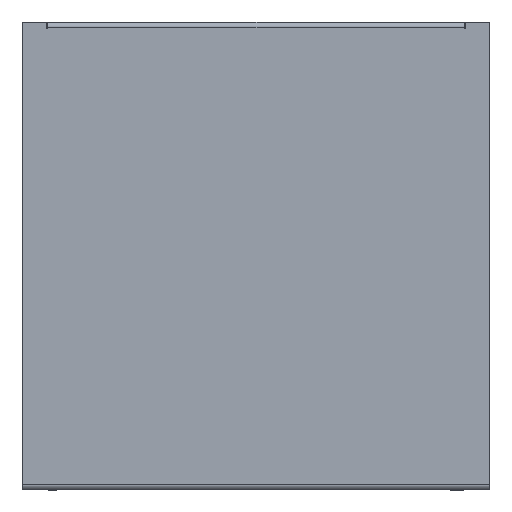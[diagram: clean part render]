
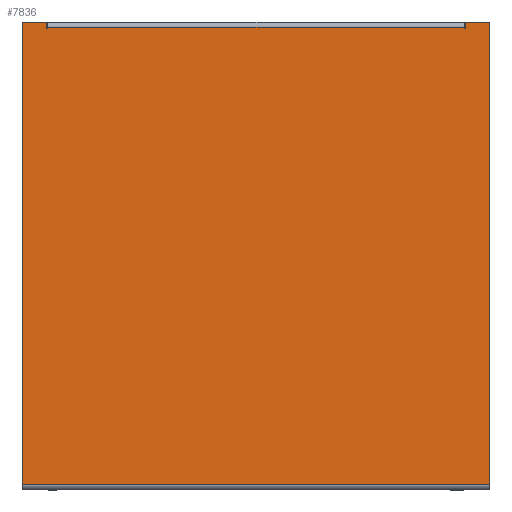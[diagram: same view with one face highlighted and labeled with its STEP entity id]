
A CAD part, left-side view. The second image highlights one B-rep face of the part: STEP entity #7836.
In plain terms, the highlighted planar face has unit normal (-1, 0, 0).
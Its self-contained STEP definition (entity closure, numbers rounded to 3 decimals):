
#76 = VECTOR ( 'NONE', #1797, 1000. ) ;
#78 = DIRECTION ( 'NONE',  ( 0., 1., 0. ) ) ;
#143 = VERTEX_POINT ( 'NONE', #7444 ) ;
#147 = LINE ( 'NONE', #1275, #6655 ) ;
#205 = DIRECTION ( 'NONE',  ( 1., 0., 0. ) ) ;
#279 = CARTESIAN_POINT ( 'NONE',  ( -450., -313.5, 600. ) ) ;
#378 = LINE ( 'NONE', #2094, #3633 ) ;
#403 = LINE ( 'NONE', #6914, #6933 ) ;
#527 = LINE ( 'NONE', #1353, #3585 ) ;
#727 = VERTEX_POINT ( 'NONE', #4244 ) ;
#1008 = VERTEX_POINT ( 'NONE', #279 ) ;
#1156 = VECTOR ( 'NONE', #1201, 1000. ) ;
#1201 = DIRECTION ( 'NONE',  ( 0., -1., 0. ) ) ;
#1229 = CARTESIAN_POINT ( 'NONE',  ( -450., -313.5, 590. ) ) ;
#1275 = CARTESIAN_POINT ( 'NONE',  ( -450., 350., 600. ) ) ;
#1353 = CARTESIAN_POINT ( 'NONE',  ( -450., 313.5, 0. ) ) ;
#1382 = CARTESIAN_POINT ( 'NONE',  ( -450., 313.5, 590. ) ) ;
#1412 = VERTEX_POINT ( 'NONE', #1382 ) ;
#1516 = EDGE_CURVE ( 'NONE', #4821, #2893, #6252, .T. ) ;
#1615 = DIRECTION ( 'NONE',  ( 0., 0., 1. ) ) ;
#1727 = CARTESIAN_POINT ( 'NONE',  ( -450., -311.5, 592. ) ) ;
#1797 = DIRECTION ( 'NONE',  ( 0., 0., 1. ) ) ;
#1970 = LINE ( 'NONE', #6509, #6686 ) ;
#2032 = ORIENTED_EDGE ( 'NONE', *, *, #2855, .F. ) ;
#2094 = CARTESIAN_POINT ( 'NONE',  ( -450., 350., 600. ) ) ;
#2135 = ORIENTED_EDGE ( 'NONE', *, *, #6952, .T. ) ;
#2151 = ORIENTED_EDGE ( 'NONE', *, *, #4120, .T. ) ;
#2193 = CARTESIAN_POINT ( 'NONE',  ( -450., 350., 600. ) ) ;
#2196 = FACE_OUTER_BOUND ( 'NONE', #2233, .T. ) ;
#2233 = EDGE_LOOP ( 'NONE', ( #2032, #3055, #7869, #4473, #4886, #7828, #7443, #3291, #7358, #2135, #2151, #6149 ) ) ;
#2441 = EDGE_CURVE ( 'NONE', #2893, #3813, #378, .T. ) ;
#2657 = VERTEX_POINT ( 'NONE', #1229 ) ;
#2676 = CARTESIAN_POINT ( 'NONE',  ( -450., 0., 0. ) ) ;
#2834 = CARTESIAN_POINT ( 'NONE',  ( -450., 311.5, 0. ) ) ;
#2855 = EDGE_CURVE ( 'NONE', #2657, #1008, #1970, .T. ) ;
#2893 = VERTEX_POINT ( 'NONE', #2193 ) ;
#2899 = LINE ( 'NONE', #3747, #7442 ) ;
#3055 = ORIENTED_EDGE ( 'NONE', *, *, #5639, .F. ) ;
#3077 = CARTESIAN_POINT ( 'NONE',  ( -450., 311.5, 592. ) ) ;
#3080 = CARTESIAN_POINT ( 'NONE',  ( -450., -350., 600. ) ) ;
#3232 = DIRECTION ( 'NONE',  ( 0., 1., 0. ) ) ;
#3291 = ORIENTED_EDGE ( 'NONE', *, *, #1516, .T. ) ;
#3451 = VECTOR ( 'NONE', #1615, 1000. ) ;
#3461 = CARTESIAN_POINT ( 'NONE',  ( -450., -350., 600. ) ) ;
#3523 = LINE ( 'NONE', #3080, #76 ) ;
#3534 = EDGE_CURVE ( 'NONE', #7751, #5745, #5063, .T. ) ;
#3585 = VECTOR ( 'NONE', #6307, 1000. ) ;
#3633 = VECTOR ( 'NONE', #6354, 1000. ) ;
#3747 = CARTESIAN_POINT ( 'NONE',  ( -450., -311.5, 0. ) ) ;
#3753 = DIRECTION ( 'NONE',  ( 0., -1., 0. ) ) ;
#3813 = VERTEX_POINT ( 'NONE', #5246 ) ;
#3864 = LINE ( 'NONE', #4318, #6945 ) ;
#3871 = DIRECTION ( 'NONE',  ( 0., 0., -1. ) ) ;
#4050 = VERTEX_POINT ( 'NONE', #1727 ) ;
#4120 = EDGE_CURVE ( 'NONE', #727, #7252, #3523, .T. ) ;
#4244 = CARTESIAN_POINT ( 'NONE',  ( -450., -350., -92. ) ) ;
#4245 = DIRECTION ( 'NONE',  ( 0., 0., 1. ) ) ;
#4318 = CARTESIAN_POINT ( 'NONE',  ( -450., 350., -92. ) ) ;
#4473 = ORIENTED_EDGE ( 'NONE', *, *, #7837, .T. ) ;
#4599 = VECTOR ( 'NONE', #3232, 1000. ) ;
#4639 = DIRECTION ( 'NONE',  ( 0., 1., 0. ) ) ;
#4821 = VERTEX_POINT ( 'NONE', #5636 ) ;
#4886 = ORIENTED_EDGE ( 'NONE', *, *, #3534, .F. ) ;
#4899 = DIRECTION ( 'NONE',  ( 0., 0., -1. ) ) ;
#5063 = LINE ( 'NONE', #2834, #3451 ) ;
#5101 = EDGE_CURVE ( 'NONE', #7252, #1008, #147, .T. ) ;
#5246 = CARTESIAN_POINT ( 'NONE',  ( -450., 350., -92. ) ) ;
#5493 = EDGE_CURVE ( 'NONE', #4821, #1412, #527, .T. ) ;
#5552 = CARTESIAN_POINT ( 'NONE',  ( -450., 0., 590. ) ) ;
#5636 = CARTESIAN_POINT ( 'NONE',  ( -450., 313.5, 600. ) ) ;
#5639 = EDGE_CURVE ( 'NONE', #143, #2657, #5908, .T. ) ;
#5745 = VERTEX_POINT ( 'NONE', #3077 ) ;
#5873 = CARTESIAN_POINT ( 'NONE',  ( -450., 311.5, 590. ) ) ;
#5908 = LINE ( 'NONE', #7032, #1156 ) ;
#5918 = DIRECTION ( 'NONE',  ( 0., -1., 0. ) ) ;
#6149 = ORIENTED_EDGE ( 'NONE', *, *, #5101, .T. ) ;
#6185 = VECTOR ( 'NONE', #3753, 1000. ) ;
#6252 = LINE ( 'NONE', #6258, #4599 ) ;
#6258 = CARTESIAN_POINT ( 'NONE',  ( -450., 350., 600. ) ) ;
#6307 = DIRECTION ( 'NONE',  ( 0., 0., -1. ) ) ;
#6354 = DIRECTION ( 'NONE',  ( 0., 0., -1. ) ) ;
#6509 = CARTESIAN_POINT ( 'NONE',  ( -450., -313.5, 0. ) ) ;
#6591 = EDGE_CURVE ( 'NONE', #1412, #7751, #7652, .T. ) ;
#6607 = EDGE_CURVE ( 'NONE', #4050, #143, #2899, .T. ) ;
#6655 = VECTOR ( 'NONE', #78, 1000. ) ;
#6686 = VECTOR ( 'NONE', #4245, 1000. ) ;
#6914 = CARTESIAN_POINT ( 'NONE',  ( -450., -311.5, 592. ) ) ;
#6933 = VECTOR ( 'NONE', #4639, 1000. ) ;
#6945 = VECTOR ( 'NONE', #5918, 1000. ) ;
#6952 = EDGE_CURVE ( 'NONE', #3813, #727, #3864, .T. ) ;
#7032 = CARTESIAN_POINT ( 'NONE',  ( -450., 0., 590. ) ) ;
#7252 = VERTEX_POINT ( 'NONE', #3461 ) ;
#7358 = ORIENTED_EDGE ( 'NONE', *, *, #2441, .T. ) ;
#7442 = VECTOR ( 'NONE', #4899, 1000. ) ;
#7443 = ORIENTED_EDGE ( 'NONE', *, *, #5493, .F. ) ;
#7444 = CARTESIAN_POINT ( 'NONE',  ( -450., -311.5, 590. ) ) ;
#7633 = PLANE ( 'NONE',  #7658 ) ;
#7652 = LINE ( 'NONE', #5552, #6185 ) ;
#7658 = AXIS2_PLACEMENT_3D ( 'NONE', #2676, #205, #3871 ) ;
#7751 = VERTEX_POINT ( 'NONE', #5873 ) ;
#7828 = ORIENTED_EDGE ( 'NONE', *, *, #6591, .F. ) ;
#7836 = ADVANCED_FACE ( 'NONE', ( #2196 ), #7633, .F. ) ;
#7837 = EDGE_CURVE ( 'NONE', #4050, #5745, #403, .T. ) ;
#7869 = ORIENTED_EDGE ( 'NONE', *, *, #6607, .F. ) ;
